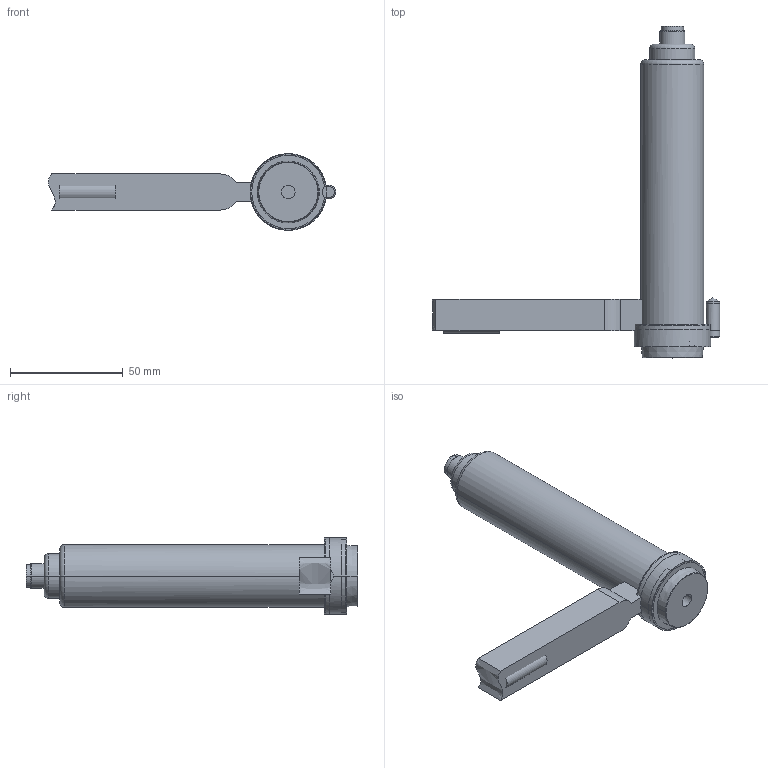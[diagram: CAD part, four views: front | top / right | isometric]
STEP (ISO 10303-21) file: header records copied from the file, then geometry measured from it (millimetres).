
FILE_DESCRIPTION((''),'2;1');
FILE_NAME('DG070006-R_ASM','2020-04-02T',('benoit'),(''),'PRO/ENGINEER BY PARAMETRIC TECHNOLOGY CORPORATION, 2007450','PRO/ENGINEER BY PARAMETRIC TECHNOLOGY CORPORATION, 2007450','');
FILE_SCHEMA(('CONFIG_CONTROL_DESIGN'));
Length unit declared in the file: millimetre
Products named in the file (9): DG010026-R; BF021026; DG070022; DG070020_CLIENT; CAPOT_115MM; GOUPILLE-6-16; 19X1_2E; DG070006-POCHE; DG070006-R_ASM
Assembly tree (8 placements, depth 2):
  DG070006-R_ASM
    DG010026-R
    BF021026
    DG070022
    DG070020_CLIENT
    CAPOT_115MM
    GOUPILLE-6-16
    19X1_2E
    DG070006-POCHE
Bounding box: 127.55 x 147.4 x 34 mm (x, y, z)
Volume: 160647.3 mm3; surface area: 64115.9 mm2
Topology: 8 solids, 8 shells, 268 faces, 650 edges, 404 vertices
Faces by surface type: cylinder 97, plane 92, cone 38, bspline 22, torus 16, sphere 2, extrusion 1
Entity records: 11358 total; most frequent: CARTESIAN_POINT 4958, DIRECTION 1314, ORIENTED_EDGE 1292, EDGE_CURVE 646, AXIS2_PLACEMENT_3D 517, VERTEX_POINT 404, EDGE_LOOP 294, VECTOR 280
